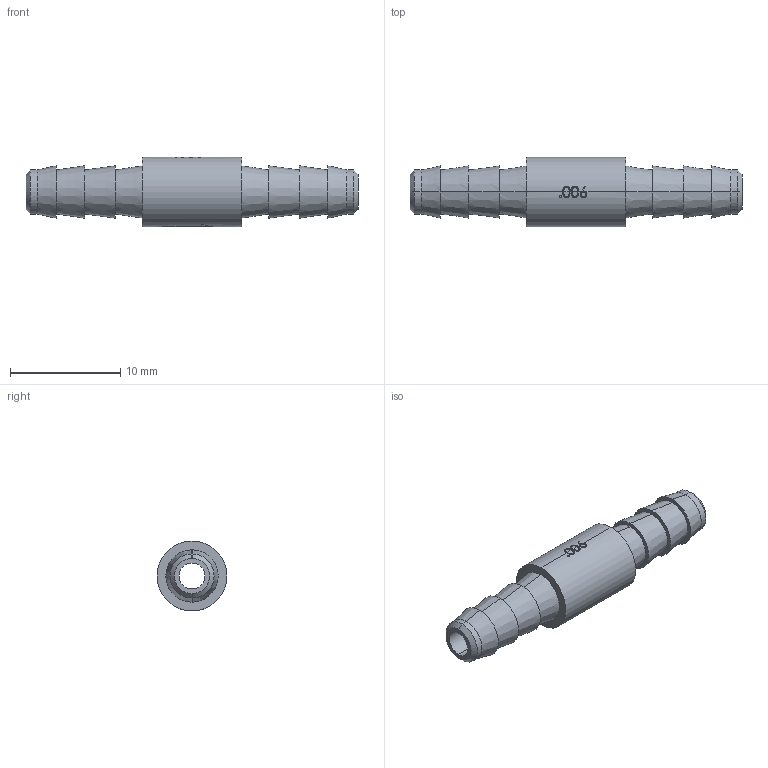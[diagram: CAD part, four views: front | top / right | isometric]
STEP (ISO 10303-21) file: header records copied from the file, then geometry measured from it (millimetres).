
FILE_DESCRIPTION(/* description */ ('SolidWorks IGES file using analytic representation for surfaces '),/* implementation_level */ '2;1');
FILE_NAME(/* name */ 'K:\Normteile INVENTOR\Air-Logic\Orifice restrictors\F-2815-051-B85.IGS.ipt.stp',/* time_stamp */ '2020-05-27T10:45:54+02:00',/* author */ ('cad'),/* organization */ (''),/* preprocessor_version */ 'ST-DEVELOPER v18',/* originating_system */ 'Autodesk Inventor 2020',/* authorisation */ '');
FILE_SCHEMA (('AUTOMOTIVE_DESIGN { 1 0 10303 214 3 1 1 }'));
Length unit declared in the file: millimetre
Products named in the file (1): F-2815-051-B85.IGS
Bounding box: 30.15 x 6.35 x 6.35 mm (x, y, z)
Surface area: 765 mm2 (no closed solid volume)
Topology: 0 solids, 92 shells, 92 faces, 441 edges, 441 vertices
Faces by surface type: bspline 36, cylinder 21, cone 20, plane 15
Entity records: 8902 total; most frequent: CARTESIAN_POINT 5569, DIRECTION 500, VERTEX_POINT 441, EDGE_CURVE 441, ORIENTED_EDGE 441, LINE 200, VECTOR 200, AXIS2_PLACEMENT_3D 150
